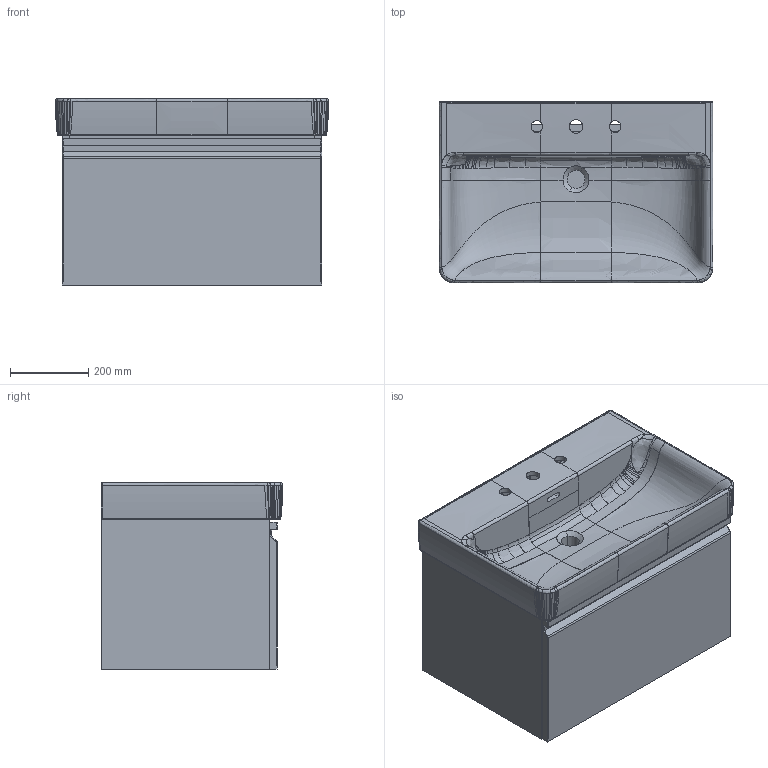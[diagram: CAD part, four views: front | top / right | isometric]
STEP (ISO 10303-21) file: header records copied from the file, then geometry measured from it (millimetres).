
FILE_DESCRIPTION(/* description */ (''),/* implementation_level */ '2;1');
FILE_NAME(/* name */ 'C:\Users\User33\Desktop\Pro S\3D01_483451.stp',/* time_stamp */ '2018-05-10T12:59:13+02:00',/* author */ ('User33'),/* organization */ (''),/* preprocessor_version */ 'ST-DEVELOPER v16.13',/* originating_system */ 'Autodesk Inventor 2018',/* authorisation */ '');
FILE_SCHEMA (('AUTOMOTIVE_DESIGN { 1 0 10303 214 3 1 1 }'));
Products named in the file (20): Assieme5; Parte222; Parte224; Parte230; Parte232; Parte234; Parte236; Parte242; Parte254; Parte256; Parte258; Parte260; Parte262; Parte272; Parte274; Parte276; Parte278; Parte280; Parte290; Parte292
Assembly tree (19 placements, depth 2):
  Assieme5
    Parte222
    Parte224
    Parte230
    Parte232
    Parte234
    Parte236
    Parte242
    Parte254
    Parte256
    Parte258
    Parte260
    Parte262
    Parte272
    Parte274
    Parte276
    Parte278
    Parte280
    Parte290
    Parte292
Bounding box: 699.94 x 464.97 x 478 mm (x, y, z)
Volume: 21396988 mm3; surface area: 3996535.9 mm2
Topology: 18 solids, 883 shells, 1372 faces, 5983 edges, 5534 vertices
Faces by surface type: bspline 736, plane 453, cylinder 150, cone 20, sphere 8, torus 5
Full cylindrical faces by diameter (mm): 2.5 x2, 4 x8, 4.1 x2, 5.1 x2, 6 x6, 7.2 x2, 10 x2, 12 x2, 12.5 x2
Entity records: 221112 total; most frequent: CARTESIAN_POINT 177878, ORIENTED_EDGE 7227, DIRECTION 6045, EDGE_CURVE 5948, VERTEX_POINT 5533, B_SPLINE_CURVE_WITH_KNOTS 2437, AXIS2_PLACEMENT_3D 2295, EDGE_LOOP 1474
